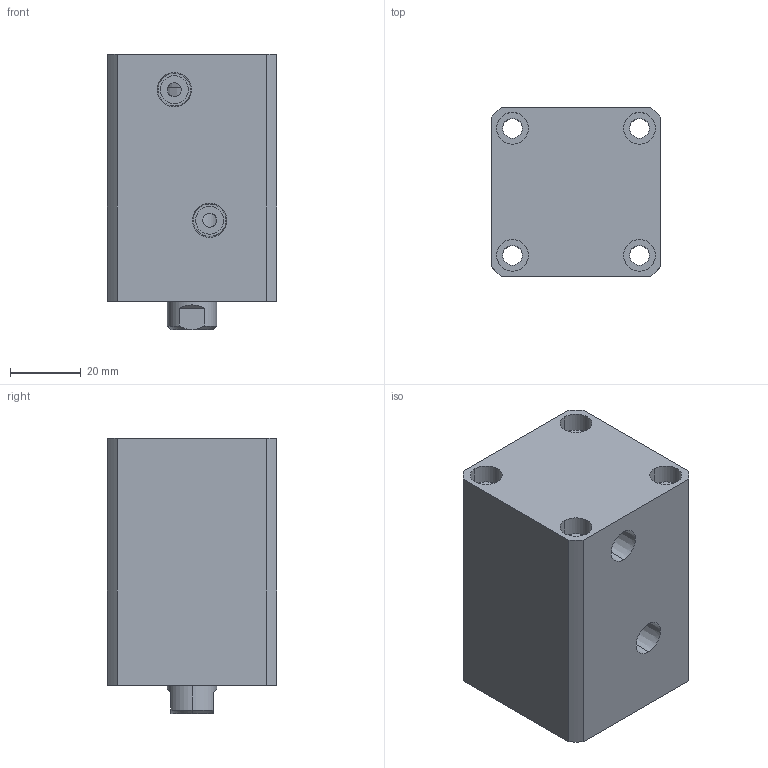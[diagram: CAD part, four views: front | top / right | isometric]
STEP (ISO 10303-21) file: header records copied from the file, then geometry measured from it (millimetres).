
FILE_DESCRIPTION (( 'STEP AP214' ), '1' );
FILE_NAME ('chtb-sd25x25n_asm.STEP', '2018-05-22T11:13:58', ( 'Windows' ), ( 'Microsoft' ), 'SwSTEP 2.0', 'SolidWorks 2015', '' );
FILE_SCHEMA (( 'AUTOMOTIVE_DESIGN' ));
Length unit declared in the file: millimetre
Products named in the file (4): CHTB-SD25X25NHSG; CHTB-SD25X25NBT; CHTB-25QG; chtb-sd25x25n_asm
Assembly tree (3 placements, depth 2):
  chtb-sd25x25n_asm
    CHTB-25QG
    CHTB-SD25X25NBT
    CHTB-SD25X25NHSG
Bounding box: 48 x 48 x 78 mm (x, y, z)
Volume: 140617.9 mm3; surface area: 39209.6 mm2
Topology: 3 solids, 3 shells, 144 faces, 377 edges, 257 vertices
Faces by surface type: cylinder 85, plane 36, cone 13, bspline 10
Entity records: 7940 total; most frequent: CARTESIAN_POINT 4299, ORIENTED_EDGE 742, DIRECTION 671, EDGE_CURVE 371, AXIS2_PLACEMENT_3D 278, VERTEX_POINT 257, EDGE_LOOP 182, FACE_OUTER_BOUND 144
